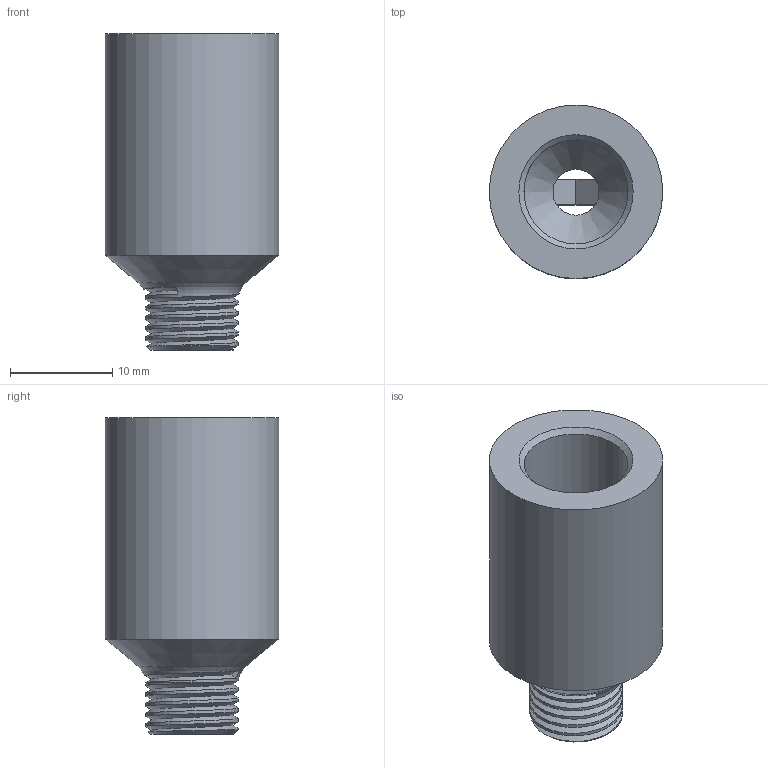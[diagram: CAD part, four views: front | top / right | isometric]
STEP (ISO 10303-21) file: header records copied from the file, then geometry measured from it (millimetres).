
FILE_DESCRIPTION(('STEP AP203'), '1');
FILE_NAME('ÑÎ_ã', '', ('UNSPECIFIED'), ('UNSPECIFIED'), 'C3D Converter', 'C3D Toolkit', '');
FILE_SCHEMA(('CONFIG_CONTROL_DESIGN'));
Length unit declared in the file: millimetre
Bounding box: 17 x 17 x 31 mm (x, y, z)
Volume: 3993.7 mm3; surface area: 2674.5 mm2
Topology: 1 solids, 1 shells, 37 faces, 104 edges, 68 vertices
Faces by surface type: plane 16, cylinder 7, bspline 7, cone 5, torus 2
Full cylindrical faces by diameter (mm): 4.5 x1, 10.2 x1, 17 x1
Entity records: 4979 total; most frequent: CARTESIAN_POINT 3837, ORIENTED_EDGE 184, DIRECTION 130, EDGE_CURVE 92, VERTEX_POINT 64, AXIS2_PLACEMENT_3D 48, EDGE_LOOP 46, COLOUR_RGB 38
